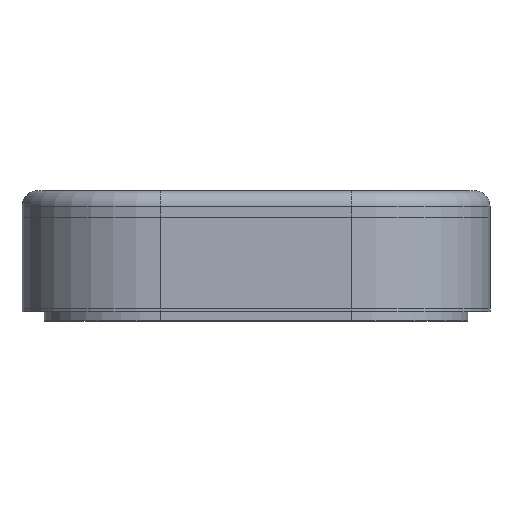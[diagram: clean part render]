
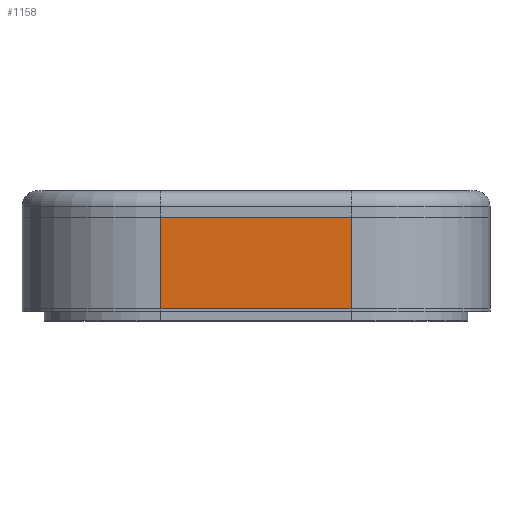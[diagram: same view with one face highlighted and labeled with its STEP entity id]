
A CAD part, front view. The second image highlights one B-rep face of the part: STEP entity #1158.
In plain terms, the highlighted planar face has unit normal (0, -1, 0).
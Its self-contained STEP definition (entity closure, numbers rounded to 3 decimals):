
#44 = CYLINDRICAL_SURFACE('',#45,26.);
#45 = AXIS2_PLACEMENT_3D('',#46,#47,#48);
#46 = CARTESIAN_POINT('',(-18.,-42.,-13.6));
#47 = DIRECTION('',(0.,0.,1.));
#48 = DIRECTION('',(-1.,-0.,0.));
#309 = VERTEX_POINT('',#310);
#310 = CARTESIAN_POINT('',(-18.,-68.,-8.6));
#337 = EDGE_CURVE('',#309,#338,#340,.T.);
#338 = VERTEX_POINT('',#339);
#339 = CARTESIAN_POINT('',(-18.,-68.,8.6));
#340 = SURFACE_CURVE('',#341,(#345,#352),.PCURVE_S1.);
#341 = LINE('',#342,#343);
#342 = CARTESIAN_POINT('',(-18.,-68.,-13.6));
#343 = VECTOR('',#344,1.);
#344 = DIRECTION('',(0.,0.,1.));
#345 = PCURVE('',#44,#346);
#346 = DEFINITIONAL_REPRESENTATION('',(#347),#351);
#347 = LINE('',#348,#349);
#348 = CARTESIAN_POINT('',(1.571,0.));
#349 = VECTOR('',#350,1.);
#350 = DIRECTION('',(0.,1.));
#351 = ( GEOMETRIC_REPRESENTATION_CONTEXT(2) 
PARAMETRIC_REPRESENTATION_CONTEXT() REPRESENTATION_CONTEXT('2D SPACE',''
  ) );
#352 = PCURVE('',#353,#358);
#353 = PLANE('',#354);
#354 = AXIS2_PLACEMENT_3D('',#355,#356,#357);
#355 = CARTESIAN_POINT('',(-44.,-68.,-13.6));
#356 = DIRECTION('',(0.,1.,0.));
#357 = DIRECTION('',(0.,-0.,1.));
#358 = DEFINITIONAL_REPRESENTATION('',(#359),#363);
#359 = LINE('',#360,#361);
#360 = CARTESIAN_POINT('',(0.,26.));
#361 = VECTOR('',#362,1.);
#362 = DIRECTION('',(1.,0.));
#363 = ( GEOMETRIC_REPRESENTATION_CONTEXT(2) 
PARAMETRIC_REPRESENTATION_CONTEXT() REPRESENTATION_CONTEXT('2D SPACE',''
  ) );
#1119 = PLANE('',#1120);
#1120 = AXIS2_PLACEMENT_3D('',#1121,#1122,#1123);
#1121 = CARTESIAN_POINT('',(-18.,-68.,-13.6));
#1122 = DIRECTION('',(0.,1.,0.));
#1123 = DIRECTION('',(1.,0.,0.));
#1158 = ADVANCED_FACE('',(#1159),#353,.F.);
#1159 = FACE_BOUND('',#1160,.F.);
#1160 = EDGE_LOOP('',(#1161,#1162,#1190,#1218));
#1161 = ORIENTED_EDGE('',*,*,#337,.T.);
#1162 = ORIENTED_EDGE('',*,*,#1163,.F.);
#1163 = EDGE_CURVE('',#1164,#338,#1166,.T.);
#1164 = VERTEX_POINT('',#1165);
#1165 = CARTESIAN_POINT('',(18.,-68.,8.6));
#1166 = SURFACE_CURVE('',#1167,(#1171,#1178),.PCURVE_S1.);
#1167 = LINE('',#1168,#1169);
#1168 = CARTESIAN_POINT('',(18.,-68.,8.6));
#1169 = VECTOR('',#1170,1.);
#1170 = DIRECTION('',(-1.,-0.,-0.));
#1171 = PCURVE('',#353,#1172);
#1172 = DEFINITIONAL_REPRESENTATION('',(#1173),#1177);
#1173 = LINE('',#1174,#1175);
#1174 = CARTESIAN_POINT('',(22.2,62.));
#1175 = VECTOR('',#1176,1.);
#1176 = DIRECTION('',(0.,-1.));
#1177 = ( GEOMETRIC_REPRESENTATION_CONTEXT(2) 
PARAMETRIC_REPRESENTATION_CONTEXT() REPRESENTATION_CONTEXT('2D SPACE',''
  ) );
#1178 = PCURVE('',#1179,#1184);
#1179 = PLANE('',#1180);
#1180 = AXIS2_PLACEMENT_3D('',#1181,#1182,#1183);
#1181 = CARTESIAN_POINT('',(-18.,-68.,-13.6));
#1182 = DIRECTION('',(0.,1.,0.));
#1183 = DIRECTION('',(1.,0.,0.));
#1184 = DEFINITIONAL_REPRESENTATION('',(#1185),#1189);
#1185 = LINE('',#1186,#1187);
#1186 = CARTESIAN_POINT('',(36.,-22.2));
#1187 = VECTOR('',#1188,1.);
#1188 = DIRECTION('',(-1.,0.));
#1189 = ( GEOMETRIC_REPRESENTATION_CONTEXT(2) 
PARAMETRIC_REPRESENTATION_CONTEXT() REPRESENTATION_CONTEXT('2D SPACE',''
  ) );
#1190 = ORIENTED_EDGE('',*,*,#1191,.F.);
#1191 = EDGE_CURVE('',#1192,#1164,#1194,.T.);
#1192 = VERTEX_POINT('',#1193);
#1193 = CARTESIAN_POINT('',(18.,-68.,-8.6));
#1194 = SURFACE_CURVE('',#1195,(#1199,#1206),.PCURVE_S1.);
#1195 = LINE('',#1196,#1197);
#1196 = CARTESIAN_POINT('',(18.,-68.,-13.6));
#1197 = VECTOR('',#1198,1.);
#1198 = DIRECTION('',(0.,0.,1.));
#1199 = PCURVE('',#353,#1200);
#1200 = DEFINITIONAL_REPRESENTATION('',(#1201),#1205);
#1201 = LINE('',#1202,#1203);
#1202 = CARTESIAN_POINT('',(0.,62.));
#1203 = VECTOR('',#1204,1.);
#1204 = DIRECTION('',(1.,0.));
#1205 = ( GEOMETRIC_REPRESENTATION_CONTEXT(2) 
PARAMETRIC_REPRESENTATION_CONTEXT() REPRESENTATION_CONTEXT('2D SPACE',''
  ) );
#1206 = PCURVE('',#1207,#1212);
#1207 = CYLINDRICAL_SURFACE('',#1208,26.);
#1208 = AXIS2_PLACEMENT_3D('',#1209,#1210,#1211);
#1209 = CARTESIAN_POINT('',(18.,-42.,-13.6));
#1210 = DIRECTION('',(0.,0.,1.));
#1211 = DIRECTION('',(1.,0.,-0.));
#1212 = DEFINITIONAL_REPRESENTATION('',(#1213),#1217);
#1213 = LINE('',#1214,#1215);
#1214 = CARTESIAN_POINT('',(4.712,0.));
#1215 = VECTOR('',#1216,1.);
#1216 = DIRECTION('',(-0.,1.));
#1217 = ( GEOMETRIC_REPRESENTATION_CONTEXT(2) 
PARAMETRIC_REPRESENTATION_CONTEXT() REPRESENTATION_CONTEXT('2D SPACE',''
  ) );
#1218 = ORIENTED_EDGE('',*,*,#1219,.T.);
#1219 = EDGE_CURVE('',#1192,#309,#1220,.T.);
#1220 = SURFACE_CURVE('',#1221,(#1225,#1232),.PCURVE_S1.);
#1221 = LINE('',#1222,#1223);
#1222 = CARTESIAN_POINT('',(18.,-68.,-8.6));
#1223 = VECTOR('',#1224,1.);
#1224 = DIRECTION('',(-1.,-0.,-0.));
#1225 = PCURVE('',#353,#1226);
#1226 = DEFINITIONAL_REPRESENTATION('',(#1227),#1231);
#1227 = LINE('',#1228,#1229);
#1228 = CARTESIAN_POINT('',(5.,62.));
#1229 = VECTOR('',#1230,1.);
#1230 = DIRECTION('',(0.,-1.));
#1231 = ( GEOMETRIC_REPRESENTATION_CONTEXT(2) 
PARAMETRIC_REPRESENTATION_CONTEXT() REPRESENTATION_CONTEXT('2D SPACE',''
  ) );
#1232 = PCURVE('',#1119,#1233);
#1233 = DEFINITIONAL_REPRESENTATION('',(#1234),#1238);
#1234 = LINE('',#1235,#1236);
#1235 = CARTESIAN_POINT('',(36.,-5.));
#1236 = VECTOR('',#1237,1.);
#1237 = DIRECTION('',(-1.,0.));
#1238 = ( GEOMETRIC_REPRESENTATION_CONTEXT(2) 
PARAMETRIC_REPRESENTATION_CONTEXT() REPRESENTATION_CONTEXT('2D SPACE',''
  ) );
